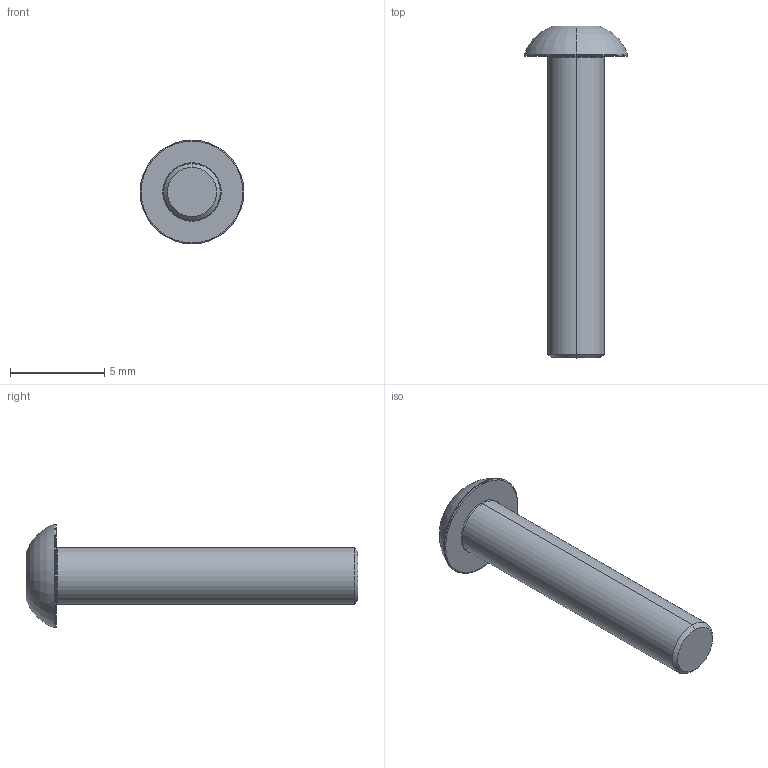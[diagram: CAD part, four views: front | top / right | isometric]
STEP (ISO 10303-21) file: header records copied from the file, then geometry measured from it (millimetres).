
FILE_DESCRIPTION (( 'STEP AP203' ), '1' );
FILE_NAME ('LGDD-304-M3x16.STEP', '2026-08-08T02:25:58', ( '' ), ( '' ), 'SwSTEP 2.0', 'SolidWorks 2020', '' );
FILE_SCHEMA (( 'CONFIG_CONTROL_DESIGN' ));
Length unit declared in the file: millimetre
Products named in the file (1): LGDD-304-M3x16
Bounding box: 5.5 x 17.6 x 5.5 mm (x, y, z)
Volume: 134.5 mm3; surface area: 217.9 mm2
Topology: 1 solids, 1 shells, 31 faces, 59 edges, 32 vertices
Faces by surface type: plane 10, cone 9, torus 8, cylinder 4
Entity records: 876 total; most frequent: CARTESIAN_POINT 166, DIRECTION 149, ORIENTED_EDGE 118, AXIS2_PLACEMENT_3D 65, EDGE_CURVE 59, CIRCLE 33, EDGE_LOOP 33, VERTEX_POINT 32
